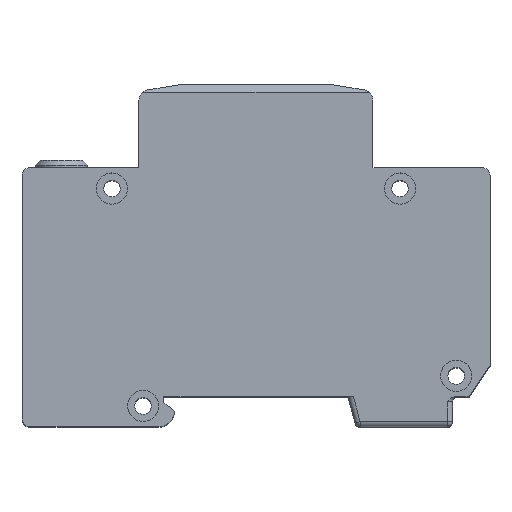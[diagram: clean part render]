
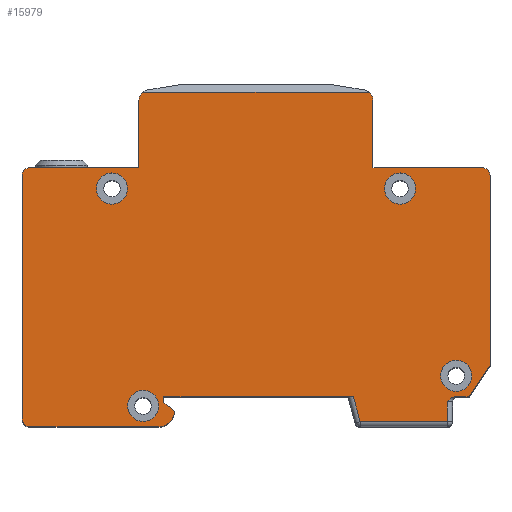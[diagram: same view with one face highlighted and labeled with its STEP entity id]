
A CAD part, top view. The second image highlights one B-rep face of the part: STEP entity #15979.
In plain terms, the highlighted planar face has unit normal (0, 0, 1).
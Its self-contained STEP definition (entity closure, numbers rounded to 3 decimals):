
#173=FACE_BOUND('',#2156,.T.);
#174=FACE_BOUND('',#2157,.T.);
#175=FACE_BOUND('',#2158,.T.);
#176=FACE_BOUND('',#2159,.T.);
#206=B_SPLINE_CURVE_WITH_KNOTS('',3,(#25041,#25042,#25043,#25044,#25045,
#25046),.UNSPECIFIED.,.F.,.F.,(4,2,4),(0.506,0.582,
0.7),.UNSPECIFIED.);
#571=CIRCLE('',#17049,1.5);
#573=CIRCLE('',#17080,1.5);
#575=CIRCLE('',#17086,3.);
#585=CIRCLE('',#17144,1.5);
#604=CIRCLE('',#17180,2.);
#605=CIRCLE('',#17181,2.);
#606=CIRCLE('',#17182,3.);
#607=CIRCLE('',#17183,3.);
#608=CIRCLE('',#17184,3.);
#609=CIRCLE('',#17185,3.);
#1279=FACE_OUTER_BOUND('',#2155,.T.);
#2155=EDGE_LOOP('',(#12785,#12786,#12787,#12788,#12789,#12790,#12791,#12792,
#12793,#12794,#12795,#12796,#12797,#12798,#12799,#12800,#12801,#12802,#12803,
#12804,#12805,#12806,#12807));
#2156=EDGE_LOOP('',(#12808));
#2157=EDGE_LOOP('',(#12809));
#2158=EDGE_LOOP('',(#12810));
#2159=EDGE_LOOP('',(#12811));
#3270=LINE('',#24030,#5149);
#3586=LINE('',#24719,#5465);
#3604=LINE('',#24756,#5483);
#3610=LINE('',#24772,#5489);
#3614=LINE('',#24780,#5493);
#3618=LINE('',#24792,#5497);
#3640=LINE('',#24851,#5519);
#3644=LINE('',#24860,#5523);
#3696=LINE('',#24960,#5575);
#3702=LINE('',#24978,#5581);
#3707=LINE('',#25027,#5586);
#3708=LINE('',#25031,#5587);
#3709=LINE('',#25034,#5588);
#3710=LINE('',#25036,#5589);
#3711=LINE('',#25038,#5590);
#3712=LINE('',#25040,#5591);
#5149=VECTOR('',#19423,10.);
#5465=VECTOR('',#19975,10.);
#5483=VECTOR('',#20015,10.);
#5489=VECTOR('',#20033,10.);
#5493=VECTOR('',#20041,10.);
#5497=VECTOR('',#20053,10.);
#5519=VECTOR('',#20117,10.);
#5523=VECTOR('',#20127,10.);
#5575=VECTOR('',#20223,10.);
#5581=VECTOR('',#20245,10.);
#5586=VECTOR('',#20312,10.);
#5587=VECTOR('',#20315,10.);
#5588=VECTOR('',#20318,10.);
#5589=VECTOR('',#20319,10.);
#5590=VECTOR('',#20320,10.);
#5591=VECTOR('',#20321,10.);
#6888=VERTEX_POINT('',#24027);
#6889=VERTEX_POINT('',#24029);
#7114=VERTEX_POINT('',#24609);
#7144=VERTEX_POINT('',#24717);
#7150=VERTEX_POINT('',#24746);
#7152=VERTEX_POINT('',#24754);
#7154=VERTEX_POINT('',#24762);
#7156=VERTEX_POINT('',#24770);
#7158=VERTEX_POINT('',#24778);
#7162=VERTEX_POINT('',#24790);
#7177=VERTEX_POINT('',#24848);
#7178=VERTEX_POINT('',#24850);
#7180=VERTEX_POINT('',#24858);
#7206=VERTEX_POINT('',#24958);
#7208=VERTEX_POINT('',#24966);
#7210=VERTEX_POINT('',#24976);
#7223=VERTEX_POINT('',#25026);
#7224=VERTEX_POINT('',#25028);
#7225=VERTEX_POINT('',#25030);
#7226=VERTEX_POINT('',#25032);
#7227=VERTEX_POINT('',#25035);
#7228=VERTEX_POINT('',#25037);
#7229=VERTEX_POINT('',#25039);
#7230=VERTEX_POINT('',#25047);
#7231=VERTEX_POINT('',#25049);
#7232=VERTEX_POINT('',#25051);
#7233=VERTEX_POINT('',#25053);
#8708=EDGE_CURVE('',#6889,#6888,#3270,.T.);
#8998=EDGE_CURVE('',#7114,#6888,#571,.T.);
#9054=EDGE_CURVE('',#7114,#7144,#3586,.T.);
#9070=EDGE_CURVE('',#7150,#7144,#573,.T.);
#9074=EDGE_CURVE('',#7150,#7152,#3604,.T.);
#9078=EDGE_CURVE('',#7152,#7154,#575,.T.);
#9082=EDGE_CURVE('',#7154,#7156,#3610,.T.);
#9086=EDGE_CURVE('',#7156,#7158,#3614,.T.);
#9092=EDGE_CURVE('',#7158,#7162,#3618,.T.);
#9121=EDGE_CURVE('',#7177,#7178,#3640,.T.);
#9126=EDGE_CURVE('',#7177,#7180,#3644,.T.);
#9178=EDGE_CURVE('',#7180,#7206,#3696,.T.);
#9182=EDGE_CURVE('',#7208,#7206,#585,.T.);
#9188=EDGE_CURVE('',#7208,#7210,#3702,.T.);
#9209=EDGE_CURVE('',#7210,#7223,#3707,.T.);
#9210=EDGE_CURVE('',#7224,#7223,#604,.T.);
#9211=EDGE_CURVE('',#7225,#7224,#3708,.T.);
#9212=EDGE_CURVE('',#7226,#7225,#605,.T.);
#9213=EDGE_CURVE('',#7226,#6889,#3709,.T.);
#9214=EDGE_CURVE('',#7227,#7162,#3710,.T.);
#9215=EDGE_CURVE('',#7228,#7227,#3711,.T.);
#9216=EDGE_CURVE('',#7229,#7228,#3712,.T.);
#9217=EDGE_CURVE('',#7178,#7229,#206,.T.);
#9218=EDGE_CURVE('',#7230,#7230,#606,.T.);
#9219=EDGE_CURVE('',#7231,#7231,#607,.T.);
#9220=EDGE_CURVE('',#7232,#7232,#608,.T.);
#9221=EDGE_CURVE('',#7233,#7233,#609,.T.);
#12785=ORIENTED_EDGE('',*,*,#9182,.F.);
#12786=ORIENTED_EDGE('',*,*,#9188,.T.);
#12787=ORIENTED_EDGE('',*,*,#9209,.T.);
#12788=ORIENTED_EDGE('',*,*,#9210,.F.);
#12789=ORIENTED_EDGE('',*,*,#9211,.F.);
#12790=ORIENTED_EDGE('',*,*,#9212,.F.);
#12791=ORIENTED_EDGE('',*,*,#9213,.T.);
#12792=ORIENTED_EDGE('',*,*,#8708,.T.);
#12793=ORIENTED_EDGE('',*,*,#8998,.F.);
#12794=ORIENTED_EDGE('',*,*,#9054,.T.);
#12795=ORIENTED_EDGE('',*,*,#9070,.F.);
#12796=ORIENTED_EDGE('',*,*,#9074,.T.);
#12797=ORIENTED_EDGE('',*,*,#9078,.T.);
#12798=ORIENTED_EDGE('',*,*,#9082,.T.);
#12799=ORIENTED_EDGE('',*,*,#9086,.T.);
#12800=ORIENTED_EDGE('',*,*,#9092,.T.);
#12801=ORIENTED_EDGE('',*,*,#9214,.F.);
#12802=ORIENTED_EDGE('',*,*,#9215,.F.);
#12803=ORIENTED_EDGE('',*,*,#9216,.F.);
#12804=ORIENTED_EDGE('',*,*,#9217,.F.);
#12805=ORIENTED_EDGE('',*,*,#9121,.F.);
#12806=ORIENTED_EDGE('',*,*,#9126,.T.);
#12807=ORIENTED_EDGE('',*,*,#9178,.T.);
#12808=ORIENTED_EDGE('',*,*,#9218,.T.);
#12809=ORIENTED_EDGE('',*,*,#9219,.T.);
#12810=ORIENTED_EDGE('',*,*,#9220,.T.);
#12811=ORIENTED_EDGE('',*,*,#9221,.T.);
#15242=PLANE('',#17179);
#15979=ADVANCED_FACE('',(#1279,#173,#174,#175,#176),#15242,.T.);
#17049=AXIS2_PLACEMENT_3D('',#24611,#19874,#19875);
#17080=AXIS2_PLACEMENT_3D('',#24748,#20006,#20007);
#17086=AXIS2_PLACEMENT_3D('',#24764,#20024,#20025);
#17144=AXIS2_PLACEMENT_3D('',#24968,#20232,#20233);
#17179=AXIS2_PLACEMENT_3D('',#25025,#20310,#20311);
#17180=AXIS2_PLACEMENT_3D('',#25029,#20313,#20314);
#17181=AXIS2_PLACEMENT_3D('',#25033,#20316,#20317);
#17182=AXIS2_PLACEMENT_3D('',#25048,#20322,#20323);
#17183=AXIS2_PLACEMENT_3D('',#25050,#20324,#20325);
#17184=AXIS2_PLACEMENT_3D('',#25052,#20326,#20327);
#17185=AXIS2_PLACEMENT_3D('',#25054,#20328,#20329);
#19423=DIRECTION('',(-1.,0.,0.));
#19874=DIRECTION('center_axis',(0.,0.,-1.));
#19875=DIRECTION('ref_axis',(-0.707,0.707,0.));
#19975=DIRECTION('',(0.,-1.,0.));
#20006=DIRECTION('center_axis',(0.,0.,-1.));
#20007=DIRECTION('ref_axis',(-0.707,-0.707,0.));
#20015=DIRECTION('',(1.,0.,0.));
#20024=DIRECTION('center_axis',(0.,0.,1.));
#20025=DIRECTION('ref_axis',(0.,-1.,0.));
#20033=DIRECTION('',(-0.781,0.625,0.));
#20041=DIRECTION('',(0.,1.,0.));
#20053=DIRECTION('',(1.,0.,0.));
#20117=DIRECTION('',(-1.,0.,0.));
#20127=DIRECTION('',(0.555,0.832,0.));
#20223=DIRECTION('',(0.,1.,0.));
#20232=DIRECTION('center_axis',(0.,0.,-1.));
#20233=DIRECTION('ref_axis',(0.707,0.707,0.));
#20245=DIRECTION('',(-1.,0.,0.));
#20310=DIRECTION('center_axis',(0.,0.,1.));
#20311=DIRECTION('ref_axis',(1.,0.,0.));
#20312=DIRECTION('',(0.,1.,0.));
#20313=DIRECTION('center_axis',(0.,0.,-1.));
#20314=DIRECTION('ref_axis',(0.762,0.648,0.));
#20315=DIRECTION('',(1.,0.,0.));
#20316=DIRECTION('center_axis',(0.,0.,-1.));
#20317=DIRECTION('ref_axis',(-0.762,0.648,0.));
#20318=DIRECTION('',(0.,-1.,0.));
#20319=DIRECTION('',(-0.259,0.966,0.));
#20320=DIRECTION('',(-1.,0.,0.));
#20321=DIRECTION('',(0.,-1.,0.));
#20322=DIRECTION('center_axis',(0.,0.,-1.));
#20323=DIRECTION('ref_axis',(1.,0.,0.));
#20324=DIRECTION('center_axis',(0.,0.,-1.));
#20325=DIRECTION('ref_axis',(1.,0.,0.));
#20326=DIRECTION('center_axis',(0.,0.,-1.));
#20327=DIRECTION('ref_axis',(1.,0.,0.));
#20328=DIRECTION('center_axis',(0.,0.,-1.));
#20329=DIRECTION('ref_axis',(1.,0.,0.));
#24027=CARTESIAN_POINT('',(-43.5,14.,17.5));
#24029=CARTESIAN_POINT('',(-22.5,14.,17.5));
#24030=CARTESIAN_POINT('',(-22.5,14.,17.5));
#24609=CARTESIAN_POINT('',(-45.,12.5,17.5));
#24611=CARTESIAN_POINT('Origin',(-43.5,12.5,17.5));
#24717=CARTESIAN_POINT('',(-45.,-34.3,17.5));
#24719=CARTESIAN_POINT('',(-45.,14.,17.5));
#24746=CARTESIAN_POINT('',(-43.5,-35.8,17.5));
#24748=CARTESIAN_POINT('Origin',(-43.5,-34.3,17.5));
#24754=CARTESIAN_POINT('',(-18.7,-35.8,17.5));
#24756=CARTESIAN_POINT('',(-45.,-35.8,17.5));
#24762=CARTESIAN_POINT('',(-15.7,-32.8,17.5));
#24764=CARTESIAN_POINT('Origin',(-18.7,-32.8,17.5));
#24770=CARTESIAN_POINT('',(-17.7,-31.2,17.5));
#24772=CARTESIAN_POINT('',(-15.7,-32.8,17.5));
#24778=CARTESIAN_POINT('',(-17.7,-30.,17.5));
#24780=CARTESIAN_POINT('',(-17.7,-31.2,17.5));
#24790=CARTESIAN_POINT('',(18.735,-30.,17.5));
#24792=CARTESIAN_POINT('',(-17.7,-30.,17.5));
#24848=CARTESIAN_POINT('',(41.,-30.,17.5));
#24850=CARTESIAN_POINT('',(38.532,-30.,17.5));
#24851=CARTESIAN_POINT('',(18.592,-30.,17.5));
#24858=CARTESIAN_POINT('',(45.,-24.,17.5));
#24860=CARTESIAN_POINT('',(41.,-30.,17.5));
#24958=CARTESIAN_POINT('',(45.,12.5,17.5));
#24960=CARTESIAN_POINT('',(45.,-24.,17.5));
#24966=CARTESIAN_POINT('',(43.5,14.,17.5));
#24968=CARTESIAN_POINT('Origin',(43.5,12.5,17.5));
#24976=CARTESIAN_POINT('',(22.5,14.,17.5));
#24978=CARTESIAN_POINT('',(45.,14.,17.5));
#25025=CARTESIAN_POINT('Origin',(-0.615,-5.122,17.5));
#25026=CARTESIAN_POINT('',(22.5,26.999,17.5));
#25027=CARTESIAN_POINT('',(22.5,14.,17.5));
#25028=CARTESIAN_POINT('',(21.821,28.5,17.5));
#25029=CARTESIAN_POINT('Origin',(20.5,26.999,17.5));
#25030=CARTESIAN_POINT('',(-21.821,28.5,17.5));
#25031=CARTESIAN_POINT('',(10.942,28.5,17.5));
#25032=CARTESIAN_POINT('',(-22.5,26.999,17.5));
#25033=CARTESIAN_POINT('Origin',(-20.5,26.999,17.5));
#25034=CARTESIAN_POINT('',(-22.5,30.,17.5));
#25035=CARTESIAN_POINT('',(20.021,-34.8,17.5));
#25036=CARTESIAN_POINT('',(14.943,-15.846,17.5));
#25037=CARTESIAN_POINT('',(36.8,-34.8,17.5));
#25038=CARTESIAN_POINT('',(9.319,-34.8,17.5));
#25039=CARTESIAN_POINT('',(36.8,-31.,17.5));
#25040=CARTESIAN_POINT('',(36.8,-20.461,17.5));
#25041=CARTESIAN_POINT('Ctrl Pts',(38.532,-30.,17.5));
#25042=CARTESIAN_POINT('Ctrl Pts',(38.277,-30.,17.5));
#25043=CARTESIAN_POINT('Ctrl Pts',(37.985,-30.09,17.5));
#25044=CARTESIAN_POINT('Ctrl Pts',(37.415,-30.396,17.5));
#25045=CARTESIAN_POINT('Ctrl Pts',(37.077,-30.723,17.5));
#25046=CARTESIAN_POINT('Ctrl Pts',(36.8,-31.,17.5));
#25047=CARTESIAN_POINT('',(35.5,-26.,17.5));
#25048=CARTESIAN_POINT('Origin',(38.5,-26.,17.5));
#25049=CARTESIAN_POINT('',(24.7,10.,17.5));
#25050=CARTESIAN_POINT('Origin',(27.7,10.,17.5));
#25051=CARTESIAN_POINT('',(-30.7,10.,17.5));
#25052=CARTESIAN_POINT('Origin',(-27.7,10.,17.5));
#25053=CARTESIAN_POINT('',(-24.7,-31.8,17.5));
#25054=CARTESIAN_POINT('Origin',(-21.7,-31.8,17.5));
